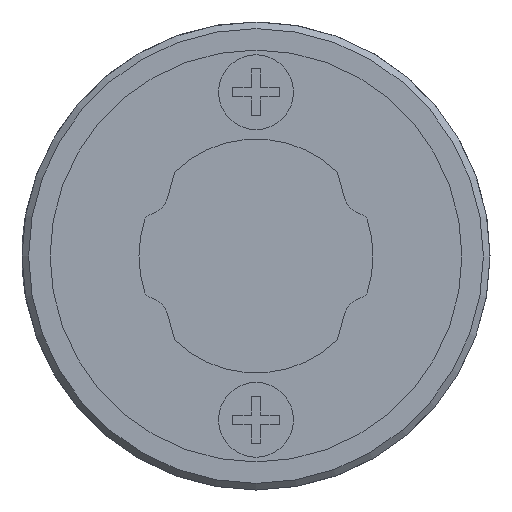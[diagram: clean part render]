
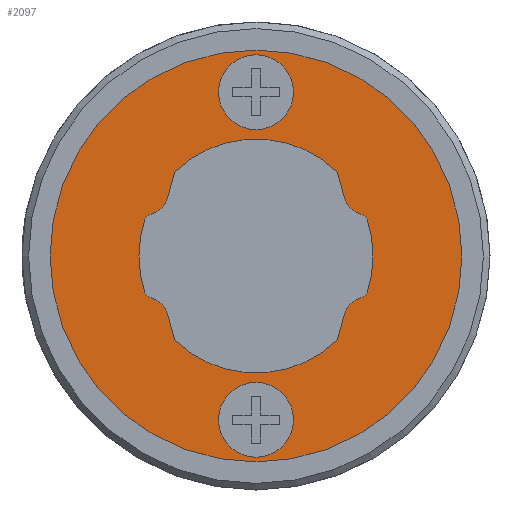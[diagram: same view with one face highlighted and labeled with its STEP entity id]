
A CAD part, left-side view. The second image highlights one B-rep face of the part: STEP entity #2097.
In plain terms, the highlighted planar face has unit normal (-1, 0, 0).
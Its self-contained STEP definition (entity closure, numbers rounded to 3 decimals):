
#50=PLANE('',#2297);
#170=LINE('',#3285,#380);
#171=LINE('',#3297,#381);
#172=LINE('',#3305,#382);
#173=LINE('',#3317,#383);
#380=VECTOR('',#2652,1000.);
#381=VECTOR('',#2663,1000.);
#382=VECTOR('',#2670,1000.);
#383=VECTOR('',#2681,1000.);
#703=ORIENTED_EDGE('',*,*,#1247,.F.);
#704=ORIENTED_EDGE('',*,*,#1248,.F.);
#705=ORIENTED_EDGE('',*,*,#1249,.F.);
#706=ORIENTED_EDGE('',*,*,#1250,.F.);
#707=ORIENTED_EDGE('',*,*,#1251,.F.);
#708=ORIENTED_EDGE('',*,*,#1252,.F.);
#709=ORIENTED_EDGE('',*,*,#1253,.T.);
#710=ORIENTED_EDGE('',*,*,#1254,.F.);
#711=ORIENTED_EDGE('',*,*,#1255,.F.);
#712=ORIENTED_EDGE('',*,*,#1256,.F.);
#713=ORIENTED_EDGE('',*,*,#1257,.T.);
#714=ORIENTED_EDGE('',*,*,#1258,.F.);
#715=ORIENTED_EDGE('',*,*,#1259,.F.);
#716=ORIENTED_EDGE('',*,*,#1260,.F.);
#717=ORIENTED_EDGE('',*,*,#1261,.F.);
#718=ORIENTED_EDGE('',*,*,#1262,.F.);
#719=ORIENTED_EDGE('',*,*,#1263,.T.);
#720=ORIENTED_EDGE('',*,*,#1264,.F.);
#721=ORIENTED_EDGE('',*,*,#1265,.F.);
#722=ORIENTED_EDGE('',*,*,#1266,.F.);
#723=ORIENTED_EDGE('',*,*,#1267,.T.);
#724=ORIENTED_EDGE('',*,*,#1268,.F.);
#725=ORIENTED_EDGE('',*,*,#1269,.F.);
#1247=EDGE_CURVE('',#1529,#1529,#1701,.T.);
#1248=EDGE_CURVE('',#1530,#1530,#1702,.F.);
#1249=EDGE_CURVE('',#1531,#1531,#1703,.F.);
#1250=EDGE_CURVE('',#1532,#1533,#1704,.F.);
#1251=EDGE_CURVE('',#1534,#1532,#1705,.F.);
#1252=EDGE_CURVE('',#1535,#1534,#170,.T.);
#1253=EDGE_CURVE('',#1535,#1536,#1706,.F.);
#1254=EDGE_CURVE('',#1537,#1536,#1707,.F.);
#1255=EDGE_CURVE('',#1538,#1537,#1708,.F.);
#1256=EDGE_CURVE('',#1539,#1538,#1709,.F.);
#1257=EDGE_CURVE('',#1539,#1540,#1710,.F.);
#1258=EDGE_CURVE('',#1541,#1540,#171,.T.);
#1259=EDGE_CURVE('',#1542,#1541,#1711,.F.);
#1260=EDGE_CURVE('',#1543,#1542,#1712,.F.);
#1261=EDGE_CURVE('',#1544,#1543,#1713,.F.);
#1262=EDGE_CURVE('',#1545,#1544,#172,.T.);
#1263=EDGE_CURVE('',#1545,#1546,#1714,.F.);
#1264=EDGE_CURVE('',#1547,#1546,#1715,.F.);
#1265=EDGE_CURVE('',#1548,#1547,#1716,.F.);
#1266=EDGE_CURVE('',#1549,#1548,#1717,.F.);
#1267=EDGE_CURVE('',#1549,#1550,#1718,.F.);
#1268=EDGE_CURVE('',#1551,#1550,#173,.T.);
#1269=EDGE_CURVE('',#1533,#1551,#1719,.F.);
#1529=VERTEX_POINT('',#3275);
#1530=VERTEX_POINT('',#3277);
#1531=VERTEX_POINT('',#3279);
#1532=VERTEX_POINT('',#3281);
#1533=VERTEX_POINT('',#3282);
#1534=VERTEX_POINT('',#3284);
#1535=VERTEX_POINT('',#3286);
#1536=VERTEX_POINT('',#3288);
#1537=VERTEX_POINT('',#3290);
#1538=VERTEX_POINT('',#3292);
#1539=VERTEX_POINT('',#3294);
#1540=VERTEX_POINT('',#3296);
#1541=VERTEX_POINT('',#3298);
#1542=VERTEX_POINT('',#3300);
#1543=VERTEX_POINT('',#3302);
#1544=VERTEX_POINT('',#3304);
#1545=VERTEX_POINT('',#3306);
#1546=VERTEX_POINT('',#3308);
#1547=VERTEX_POINT('',#3310);
#1548=VERTEX_POINT('',#3312);
#1549=VERTEX_POINT('',#3314);
#1550=VERTEX_POINT('',#3316);
#1551=VERTEX_POINT('',#3318);
#1701=CIRCLE('',#2298,4.4);
#1702=CIRCLE('',#2299,0.8);
#1703=CIRCLE('',#2300,0.8);
#1704=CIRCLE('',#2301,2.5);
#1705=CIRCLE('',#2302,0.15);
#1706=CIRCLE('',#2303,0.52);
#1707=CIRCLE('',#2304,0.15);
#1708=CIRCLE('',#2305,2.5);
#1709=CIRCLE('',#2306,0.15);
#1710=CIRCLE('',#2307,0.52);
#1711=CIRCLE('',#2308,0.15);
#1712=CIRCLE('',#2309,2.5);
#1713=CIRCLE('',#2310,0.15);
#1714=CIRCLE('',#2311,0.52);
#1715=CIRCLE('',#2312,0.15);
#1716=CIRCLE('',#2313,2.5);
#1717=CIRCLE('',#2314,0.15);
#1718=CIRCLE('',#2315,0.52);
#1719=CIRCLE('',#2316,0.15);
#1762=EDGE_LOOP('',(#703));
#1763=EDGE_LOOP('',(#704));
#1764=EDGE_LOOP('',(#705));
#1765=EDGE_LOOP('',(#706,#707,#708,#709,#710,#711,#712,#713,#714,#715,#716,
#717,#718,#719,#720,#721,#722,#723,#724,#725));
#1910=FACE_BOUND('',#1762,.T.);
#1911=FACE_BOUND('',#1763,.T.);
#1912=FACE_BOUND('',#1764,.T.);
#1913=FACE_BOUND('',#1765,.T.);
#2097=ADVANCED_FACE('',(#1910,#1911,#1912,#1913),#50,.F.);
#2297=AXIS2_PLACEMENT_3D('',#3273,#2640,#2641);
#2298=AXIS2_PLACEMENT_3D('',#3274,#2642,#2643);
#2299=AXIS2_PLACEMENT_3D('',#3276,#2644,#2645);
#2300=AXIS2_PLACEMENT_3D('',#3278,#2646,#2647);
#2301=AXIS2_PLACEMENT_3D('',#3280,#2648,#2649);
#2302=AXIS2_PLACEMENT_3D('',#3283,#2650,#2651);
#2303=AXIS2_PLACEMENT_3D('',#3287,#2653,#2654);
#2304=AXIS2_PLACEMENT_3D('',#3289,#2655,#2656);
#2305=AXIS2_PLACEMENT_3D('',#3291,#2657,#2658);
#2306=AXIS2_PLACEMENT_3D('',#3293,#2659,#2660);
#2307=AXIS2_PLACEMENT_3D('',#3295,#2661,#2662);
#2308=AXIS2_PLACEMENT_3D('',#3299,#2664,#2665);
#2309=AXIS2_PLACEMENT_3D('',#3301,#2666,#2667);
#2310=AXIS2_PLACEMENT_3D('',#3303,#2668,#2669);
#2311=AXIS2_PLACEMENT_3D('',#3307,#2671,#2672);
#2312=AXIS2_PLACEMENT_3D('',#3309,#2673,#2674);
#2313=AXIS2_PLACEMENT_3D('',#3311,#2675,#2676);
#2314=AXIS2_PLACEMENT_3D('',#3313,#2677,#2678);
#2315=AXIS2_PLACEMENT_3D('',#3315,#2679,#2680);
#2316=AXIS2_PLACEMENT_3D('',#3319,#2682,#2683);
#2640=DIRECTION('',(1.,0.,0.));
#2641=DIRECTION('',(0.,0.,-1.));
#2642=DIRECTION('',(1.,0.,0.));
#2643=DIRECTION('',(0.,0.,-1.));
#2644=DIRECTION('',(1.,0.,0.));
#2645=DIRECTION('',(0.,0.,-1.));
#2646=DIRECTION('',(1.,0.,0.));
#2647=DIRECTION('',(0.,0.,-1.));
#2648=DIRECTION('',(1.,0.,0.));
#2649=DIRECTION('',(0.,0.,-1.));
#2650=DIRECTION('',(1.,0.,0.));
#2651=DIRECTION('',(0.,0.,-1.));
#2652=DIRECTION('',(0.,0.268,0.963));
#2653=DIRECTION('',(1.,0.,0.));
#2654=DIRECTION('',(0.,0.,-1.));
#2655=DIRECTION('',(1.,0.,0.));
#2656=DIRECTION('',(0.,0.,-1.));
#2657=DIRECTION('',(1.,0.,0.));
#2658=DIRECTION('',(0.,0.,-1.));
#2659=DIRECTION('',(1.,0.,0.));
#2660=DIRECTION('',(0.,0.,-1.));
#2661=DIRECTION('',(1.,0.,0.));
#2662=DIRECTION('',(0.,0.,-1.));
#2663=DIRECTION('',(0.,-0.268,0.963));
#2664=DIRECTION('',(1.,0.,0.));
#2665=DIRECTION('',(0.,0.,-1.));
#2666=DIRECTION('',(1.,0.,0.));
#2667=DIRECTION('',(0.,0.,-1.));
#2668=DIRECTION('',(1.,0.,0.));
#2669=DIRECTION('',(0.,0.,-1.));
#2670=DIRECTION('',(0.,-0.268,-0.963));
#2671=DIRECTION('',(1.,0.,0.));
#2672=DIRECTION('',(0.,0.,-1.));
#2673=DIRECTION('',(1.,0.,0.));
#2674=DIRECTION('',(0.,0.,-1.));
#2675=DIRECTION('',(1.,0.,0.));
#2676=DIRECTION('',(0.,0.,-1.));
#2677=DIRECTION('',(1.,0.,0.));
#2678=DIRECTION('',(0.,0.,-1.));
#2679=DIRECTION('',(1.,0.,0.));
#2680=DIRECTION('',(0.,0.,-1.));
#2681=DIRECTION('',(0.,0.268,-0.963));
#2682=DIRECTION('',(1.,0.,0.));
#2683=DIRECTION('',(0.,0.,-1.));
#3273=CARTESIAN_POINT('',(-11.8,0.,0.));
#3274=CARTESIAN_POINT('',(-11.8,0.,0.));
#3275=CARTESIAN_POINT('',(-11.8,0.,-4.4));
#3276=CARTESIAN_POINT('',(-11.8,0.,-3.5));
#3277=CARTESIAN_POINT('',(-11.8,0.,-4.3));
#3278=CARTESIAN_POINT('',(-11.8,0.,3.5));
#3279=CARTESIAN_POINT('',(-11.8,0.,2.7));
#3280=CARTESIAN_POINT('',(-11.8,0.,0.));
#3281=CARTESIAN_POINT('',(-11.8,-1.73,1.805));
#3282=CARTESIAN_POINT('',(-11.8,1.73,1.805));
#3283=CARTESIAN_POINT('',(-11.8,-1.6,1.73));
#3284=CARTESIAN_POINT('',(-11.8,-1.745,1.77));
#3285=CARTESIAN_POINT('',(-11.8,-2.076,0.577));
#3286=CARTESIAN_POINT('',(-11.8,-1.889,1.251));
#3287=CARTESIAN_POINT('',(-11.8,-2.39,1.39));
#3288=CARTESIAN_POINT('',(-11.8,-2.266,0.885));
#3289=CARTESIAN_POINT('',(-11.8,-2.231,0.739));
#3290=CARTESIAN_POINT('',(-11.8,-2.373,0.786));
#3291=CARTESIAN_POINT('',(-11.8,0.,0.));
#3292=CARTESIAN_POINT('',(-11.8,-2.373,-0.786));
#3293=CARTESIAN_POINT('',(-11.8,-2.231,-0.739));
#3294=CARTESIAN_POINT('',(-11.8,-2.266,-0.885));
#3295=CARTESIAN_POINT('',(-11.8,-2.39,-1.39));
#3296=CARTESIAN_POINT('',(-11.8,-1.889,-1.251));
#3297=CARTESIAN_POINT('',(-11.8,-2.076,-0.577));
#3298=CARTESIAN_POINT('',(-11.8,-1.745,-1.77));
#3299=CARTESIAN_POINT('',(-11.8,-1.6,-1.73));
#3300=CARTESIAN_POINT('',(-11.8,-1.73,-1.805));
#3301=CARTESIAN_POINT('',(-11.8,0.,0.));
#3302=CARTESIAN_POINT('',(-11.8,1.73,-1.805));
#3303=CARTESIAN_POINT('',(-11.8,1.6,-1.73));
#3304=CARTESIAN_POINT('',(-11.8,1.745,-1.77));
#3305=CARTESIAN_POINT('',(-11.8,2.076,-0.577));
#3306=CARTESIAN_POINT('',(-11.8,1.889,-1.251));
#3307=CARTESIAN_POINT('',(-11.8,2.39,-1.39));
#3308=CARTESIAN_POINT('',(-11.8,2.266,-0.885));
#3309=CARTESIAN_POINT('',(-11.8,2.231,-0.739));
#3310=CARTESIAN_POINT('',(-11.8,2.373,-0.786));
#3311=CARTESIAN_POINT('',(-11.8,0.,0.));
#3312=CARTESIAN_POINT('',(-11.8,2.373,0.786));
#3313=CARTESIAN_POINT('',(-11.8,2.231,0.739));
#3314=CARTESIAN_POINT('',(-11.8,2.266,0.885));
#3315=CARTESIAN_POINT('',(-11.8,2.39,1.39));
#3316=CARTESIAN_POINT('',(-11.8,1.889,1.251));
#3317=CARTESIAN_POINT('',(-11.8,2.076,0.577));
#3318=CARTESIAN_POINT('',(-11.8,1.745,1.77));
#3319=CARTESIAN_POINT('',(-11.8,1.6,1.73));
